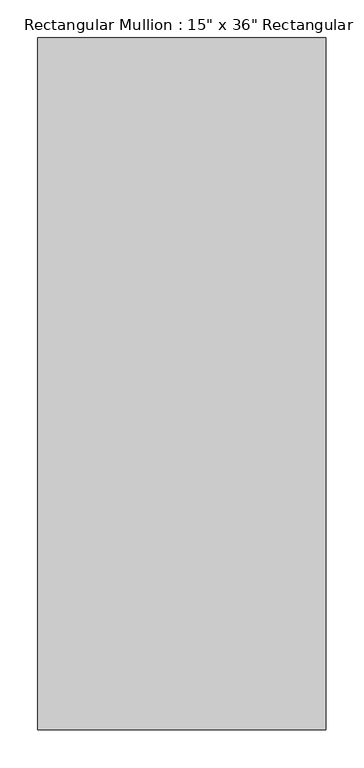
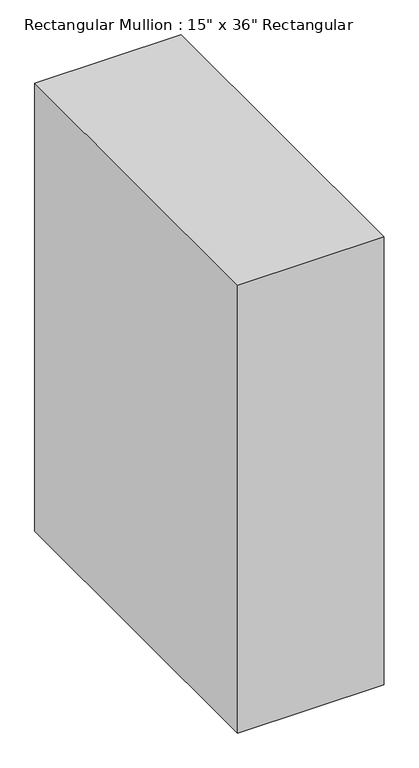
"""IFC4 building model written with IfcOpenShell, lengths in millimetres: member geometry."""

import ifcopenshell
import ifcopenshell.guid

model = None  # the IFC model being written
_history = None  # IfcOwnerHistory: only IFC2X3 demands one
_inside = {}  # id of a spatial element -> (the spatial element, [elements in it])
_under = {}  # id of a project, library or spatial element -> (it, [spatial elements below it])
_declared = {}  # id of a project -> (the project, [libraries it declares])
_typed = {}  # id of a type object -> (the type object, [elements of that type])
_made_of = {}  # id of a material, layer set ... -> (it, [elements and type objects made of it])


def new_model(schema):
    """Start an empty IFC model of exactly this schema.

    Asked for "IFC4X3", IfcOpenShell would pick the latest addendum, in which some entities
    have other attributes; the version numbers below select the first issue.
    IFC2X3 requires an IfcOwnerHistory on every rooted entity: one is made here for all.
    """
    global model, _history
    if schema == "IFC4X3":
        model = ifcopenshell.file(schema_version=(4, 3, 0, 0))
    else:
        model = ifcopenshell.file(schema=schema)
    _inside.clear()
    _under.clear()
    _declared.clear()
    _typed.clear()
    _made_of.clear()
    _history = None
    if model.schema == "IFC2X3":
        org = make("IfcOrganization", Name="unknown")
        user = make(
            "IfcPersonAndOrganization",
            ThePerson=make("IfcPerson", FamilyName="unknown"),
            TheOrganization=org,
        )
        app = make(
            "IfcApplication",
            ApplicationDeveloper=org,
            Version="unknown",
            ApplicationFullName="unknown",
            ApplicationIdentifier="unknown",
        )
        _history = make(
            "IfcOwnerHistory",
            OwningUser=user,
            OwningApplication=app,
            ChangeAction="ADDED",
            CreationDate=0,
        )
    return model


def make(cls, **values):
    """One entity of the class cls with the attributes given. An attribute that is None is left unset."""
    return model.create_entity(
        cls, **{name: value for name, value in values.items() if value is not None}
    )


def rooted(cls, **values):
    """An entity with a GlobalId (a new one), such as an element, a storey or a relation."""
    return make(cls, GlobalId=ifcopenshell.guid.new(), OwnerHistory=_history, **values)


def si_unit(unit_type, name, prefix=None):
    """IfcSIUnit, for example si_unit("LENGTHUNIT", "METRE", prefix="MILLI")."""
    return make("IfcSIUnit", UnitType=unit_type, Prefix=prefix, Name=name)


def assignment(units):
    """IfcUnitAssignment: the units of a project."""
    return None if units is None else make("IfcUnitAssignment", Units=units)


def point(xyz):
    """IfcCartesianPoint."""
    return None if xyz is None else make("IfcCartesianPoint", Coordinates=xyz)


def direction(xyz):
    """IfcDirection."""
    return None if xyz is None else make("IfcDirection", DirectionRatios=xyz)


def frame(location, z_axis=None, x_axis=None):
    """IfcAxis2Placement3D, a coordinate frame: its origin and axes. An axis left out is left unset."""
    return make(
        "IfcAxis2Placement3D",
        Location=point(location),
        Axis=direction(z_axis),
        RefDirection=direction(x_axis),
    )


def origin():
    """The frame at (0, 0, 0) with its axes left unset."""
    return frame((0.0, 0.0, 0.0))


def place(relative_to, where):
    """IfcLocalPlacement: puts the frame where relative to a parent placement (None: the world)."""
    return make(
        "IfcLocalPlacement", PlacementRelTo=relative_to, RelativePlacement=where
    )


def context(
    kind, dimensions, precision=None, world=None, true_north=None, identifier=None
):
    """IfcGeometricRepresentationContext, for example the 3D "Model" context."""
    return make(
        "IfcGeometricRepresentationContext",
        ContextIdentifier=identifier,
        ContextType=kind,
        CoordinateSpaceDimension=dimensions,
        Precision=precision,
        WorldCoordinateSystem=world,
        TrueNorth=true_north,
    )


def project(units=None, contexts=None):
    """IfcProject with its units and contexts."""
    return rooted(
        "IfcProject",
        Name="project",
        RepresentationContexts=contexts,
        UnitsInContext=assignment(units),
    )


def spatial(cls, under=None, at=None, **own):
    """A site, building, storey or space (cls), placed at a placement, below another one or the project."""
    s = rooted(cls, ObjectPlacement=at, **own)
    if under is not None:
        _under.setdefault(under.id(), (under, []))[1].append(s)
    return s


def polyline(points):
    """IfcPolyline through the points."""
    return make("IfcPolyline", Points=[point(p) for p in points])


def outline(outer, holes=None, kind="AREA"):
    """IfcArbitraryClosedProfileDef: a profile drawn as a closed curve; with holes, ...WithVoids."""
    if holes is None:
        return make("IfcArbitraryClosedProfileDef", ProfileType=kind, OuterCurve=outer)
    return make(
        "IfcArbitraryProfileDefWithVoids",
        ProfileType=kind,
        OuterCurve=outer,
        InnerCurves=holes,
    )


def extrude(swept, where, along, depth):
    """IfcExtrudedAreaSolid: the profile swept, set in the frame where, extruded along a direction by depth."""
    return make(
        "IfcExtrudedAreaSolid",
        SweptArea=swept,
        Position=where,
        ExtrudedDirection=direction(along),
        Depth=depth,
    )


def shape(context_of_items, identifier, shape_type, items):
    """IfcShapeRepresentation: the items that make up one representation, for example the "Body"."""
    return make(
        "IfcShapeRepresentation",
        ContextOfItems=context_of_items,
        RepresentationIdentifier=identifier,
        RepresentationType=shape_type,
        Items=items,
    )


def source(mapping_origin, context_of_items, identifier, shape_type, items):
    """IfcRepresentationMap: a shape defined once, which mapped items show again and again."""
    return make(
        "IfcRepresentationMap",
        MappingOrigin=mapping_origin,
        MappedRepresentation=shape(context_of_items, identifier, shape_type, items),
    )


def transform(
    local_origin,
    x_axis=None,
    y_axis=None,
    z_axis=None,
    scale=None,
    scale2=None,
    scale3=None,
    uniform=True,
):
    """IfcCartesianTransformationOperator3D, or its non-uniform kind. x_axis, y_axis, z_axis: its Axis1, 2, 3."""
    if uniform:
        return make(
            "IfcCartesianTransformationOperator3D",
            Axis1=direction(x_axis),
            Axis2=direction(y_axis),
            LocalOrigin=point(local_origin),
            Scale=scale,
            Axis3=direction(z_axis),
        )
    return make(
        "IfcCartesianTransformationOperator3DnonUniform",
        Axis1=direction(x_axis),
        Axis2=direction(y_axis),
        LocalOrigin=point(local_origin),
        Scale=scale,
        Axis3=direction(z_axis),
        Scale2=scale2,
        Scale3=scale3,
    )


def mapped(mapping_source, mapping_target):
    """IfcMappedItem: shows the shape of a source again, moved by a transform."""
    return make(
        "IfcMappedItem", MappingSource=mapping_source, MappingTarget=mapping_target
    )


def made_of(thing, what):
    """Note that an element or type object is made of a material, layer set ...; save() writes the relation."""
    if what is not None:
        _made_of.setdefault(what.id(), (what, []))[1].append(thing)
    return thing


def element(
    cls,
    number,
    at=None,
    inside=None,
    cuts=None,
    type_object=None,
    material=None,
    context=None,
    identifier="Body",
    shape_type=None,
    held_by="IfcProductDefinitionShape",
    body=None,
    shapes=None,
    **own,
):
    """One element of the class cls, such as IfcWall. Its Tag is "e" and its number.

    at: its placement. inside: the storey or other place that contains it. cuts: it is an
    opening in that element (IfcRelVoidsElement). A single representation is given by context,
    identifier, shape_type and body (its items); several are given by shapes. held_by: the class
    of the entity that holds the representations. save() writes the other relations.
    """
    e = rooted(cls, Tag="e%d" % number, ObjectPlacement=at, **own)
    if body is not None:
        shapes = [shape(context, identifier, shape_type, body)]
    if shapes is not None:
        e.Representation = make(held_by, Representations=shapes)
    if inside is not None:
        _inside.setdefault(inside.id(), (inside, []))[1].append(e)
    if cuts is not None:
        rooted(
            "IfcRelVoidsElement", RelatingBuildingElement=cuts, RelatedOpeningElement=e
        )
    if type_object is not None:
        _typed.setdefault(type_object.id(), (type_object, []))[1].append(e)
    return made_of(e, material)


def aggregate(whole, parts):
    """IfcRelAggregates: a whole, such as a stair, and the parts it consists of."""
    return rooted("IfcRelAggregates", RelatingObject=whole, RelatedObjects=parts)


def save(model, path):
    """Write the relations noted so far, then the file.

    IfcRelAggregates (storeys below a building ...), IfcRelContainedInSpatialStructure (elements
    in a storey), IfcRelDefinesByType, IfcRelAssociatesMaterial and IfcRelDeclares: one each for
    every whole, place, type object, material and project.
    """
    for whole, parts in _under.values():
        aggregate(whole, parts)
    for where, things in _inside.values():
        rooted(
            "IfcRelContainedInSpatialStructure",
            RelatedElements=things,
            RelatingStructure=where,
        )
    for kind, things in _typed.values():
        rooted("IfcRelDefinesByType", RelatedObjects=things, RelatingType=kind)
    for what, things in _made_of.values():
        rooted("IfcRelAssociatesMaterial", RelatedObjects=things, RelatingMaterial=what)
    for by, libraries in _declared.values():
        rooted("IfcRelDeclares", RelatingContext=by, RelatedDefinitions=libraries)
    model.write(path)


def member_b5b4c190(model_context):
    return source(origin(), model_context, "Body", "SweptSolid", [
        extrude(outline(polyline([(0.0, 850.9), (0.0, -63.5), (-381.0, -63.5), (-381.0, 850.9), (0.0, 850.9)])), frame((0.0, 0.0, -1232.0), z_axis=(0.0, 0.0, 1.0), x_axis=(1.0, 0.0, 0.0)), (0.0, 0.0, 1.0), 1232.0),
    ])


if __name__ == "__main__":
    model = new_model("IFC4")
    model_context = context("Model", 3, world=origin())
    ifc_project = project(units=[si_unit("LENGTHUNIT", "METRE", prefix="MILLI")], contexts=[model_context])
    site = spatial("IfcSite", under=ifc_project)
    building = spatial("IfcBuilding", under=site)
    placement = place(None, origin())
    member_shape = member_b5b4c190(model_context)
    element("IfcMember", 1, ObjectType="Rectangular Mullion : 15\" x 36\" Rectangular", at=placement, inside=building, context=model_context, shape_type="MappedRepresentation", body=[
        mapped(member_shape, transform((0.0, 0.0, 0.0), x_axis=(1.0, 0.0, 0.0), y_axis=(0.0, 1.0, 0.0), z_axis=(0.0, 0.0, 1.0))),
    ])
    save(model, "model.ifc")
